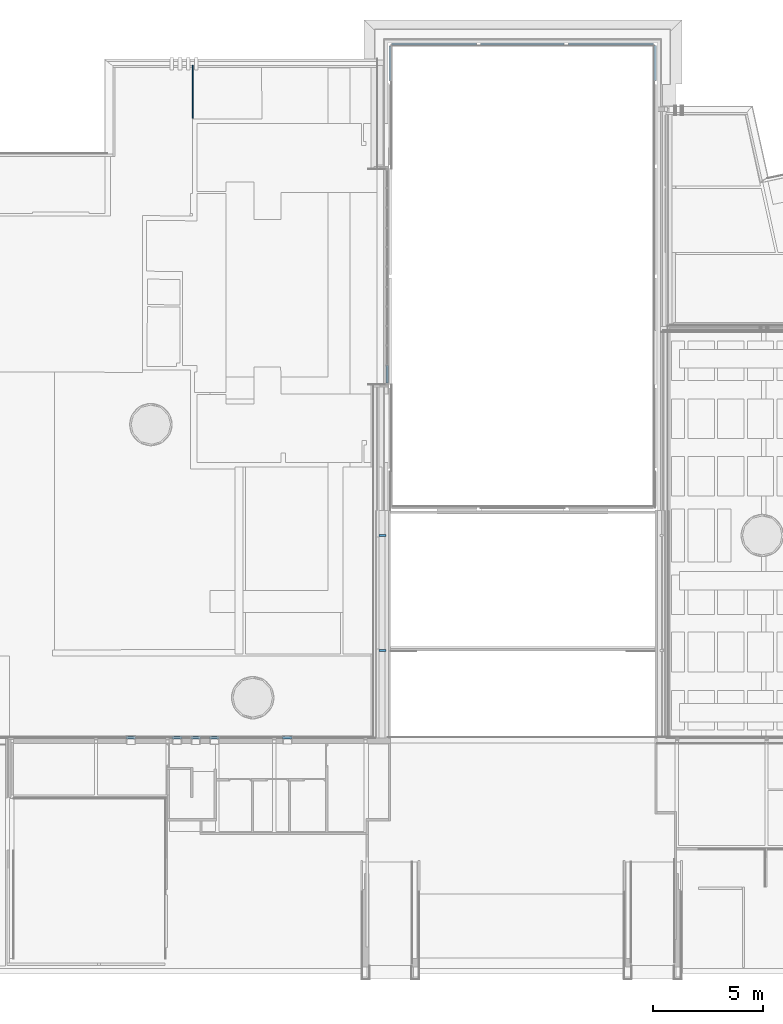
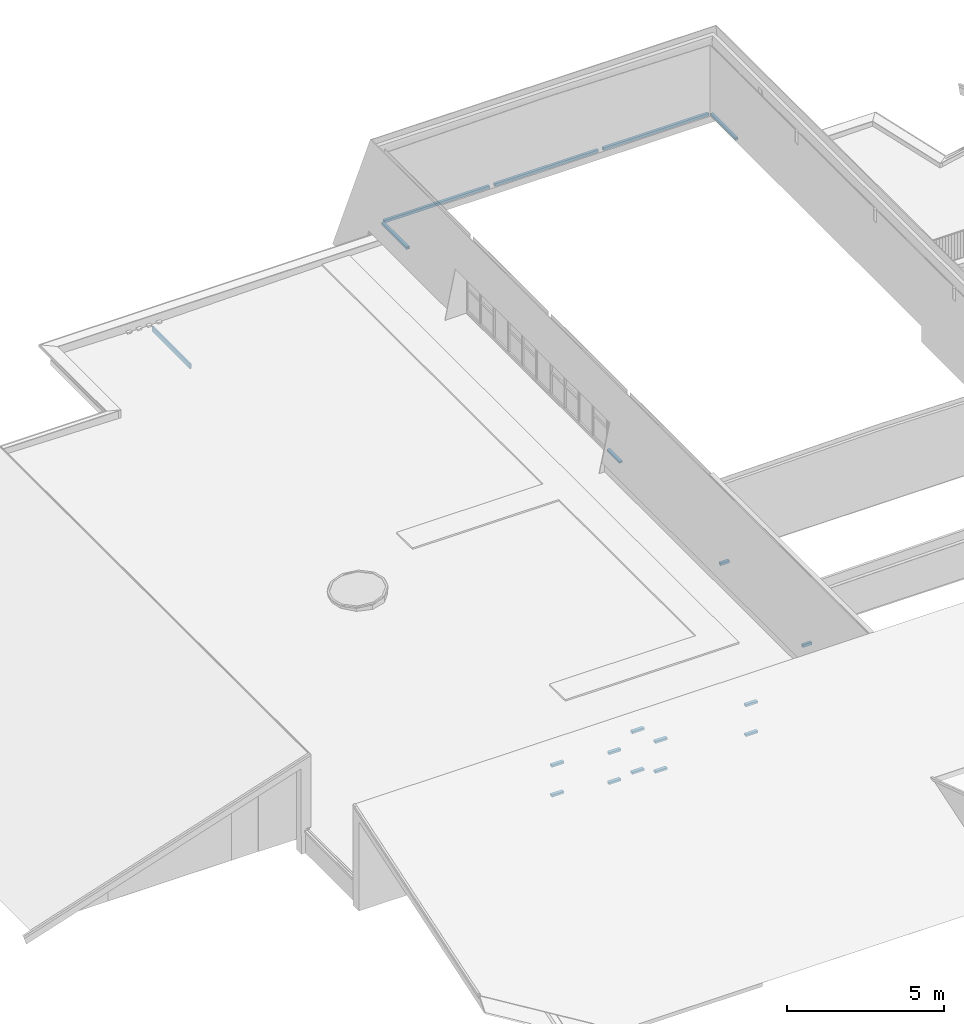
# One storey, part 5 of 66: 11 members, 8 beams, 6 elements without a shape of their own.
"""IFC2X3 building model written with IfcOpenShell, lengths in millimetres."""

import ifcopenshell
import ifcopenshell.guid

model = None  # the IFC model being written
_history = None  # IfcOwnerHistory: only IFC2X3 demands one
_inside = {}  # id of a spatial element -> (the spatial element, [elements in it])
_under = {}  # id of a project, library or spatial element -> (it, [spatial elements below it])
_declared = {}  # id of a project -> (the project, [libraries it declares])
_typed = {}  # id of a type object -> (the type object, [elements of that type])
_made_of = {}  # id of a material, layer set ... -> (it, [elements and type objects made of it])


def new_model(schema):
    """Start an empty IFC model of exactly this schema.

    Asked for "IFC4X3", IfcOpenShell would pick the latest addendum, in which some entities
    have other attributes; the version numbers below select the first issue.
    IFC2X3 requires an IfcOwnerHistory on every rooted entity: one is made here for all.
    """
    global model, _history
    if schema == "IFC4X3":
        model = ifcopenshell.file(schema_version=(4, 3, 0, 0))
    else:
        model = ifcopenshell.file(schema=schema)
    _inside.clear()
    _under.clear()
    _declared.clear()
    _typed.clear()
    _made_of.clear()
    _history = None
    if model.schema == "IFC2X3":
        org = make("IfcOrganization", Name="unknown")
        user = make(
            "IfcPersonAndOrganization",
            ThePerson=make("IfcPerson", FamilyName="unknown"),
            TheOrganization=org,
        )
        app = make(
            "IfcApplication",
            ApplicationDeveloper=org,
            Version="unknown",
            ApplicationFullName="unknown",
            ApplicationIdentifier="unknown",
        )
        _history = make(
            "IfcOwnerHistory",
            OwningUser=user,
            OwningApplication=app,
            ChangeAction="ADDED",
            CreationDate=0,
        )
    return model


def make(cls, **values):
    """One entity of the class cls with the attributes given. An attribute that is None is left unset."""
    return model.create_entity(
        cls, **{name: value for name, value in values.items() if value is not None}
    )


def entity(cls, *values):
    """Any entity or typed value of the class cls, its attributes in the order of the schema. None: left unset."""
    e = model.create_entity(cls)
    for i, value in enumerate(values):
        if value is not None:
            e[i] = value
    return e


def rooted(cls, **values):
    """An entity with a GlobalId (a new one), such as an element, a storey or a relation."""
    return make(cls, GlobalId=ifcopenshell.guid.new(), OwnerHistory=_history, **values)


def si_unit(unit_type, name, prefix=None):
    """IfcSIUnit, for example si_unit("LENGTHUNIT", "METRE", prefix="MILLI")."""
    return make("IfcSIUnit", UnitType=unit_type, Prefix=prefix, Name=name)


def converted_unit(unit_type, name, factor, base, dimensions=None, offset=None):
    """IfcConversionBasedUnit, such as the inch: factor (a typed value) times the base unit."""
    return make(
        "IfcConversionBasedUnit"
        if offset is None
        else "IfcConversionBasedUnitWithOffset",
        ConversionOffset=offset,
        Dimensions=None
        if dimensions is None
        else entity("IfcDimensionalExponents", *dimensions),
        UnitType=unit_type,
        Name=name,
        ConversionFactor=make(
            "IfcMeasureWithUnit", ValueComponent=factor, UnitComponent=base
        ),
    )


def derived_unit(unit_type, elements):
    """IfcDerivedUnit: a product of units, each with its exponent."""
    return make(
        "IfcDerivedUnit",
        Elements=[
            make("IfcDerivedUnitElement", Unit=unit, Exponent=power)
            for unit, power in elements
        ],
        UnitType=unit_type,
    )


def assignment(units):
    """IfcUnitAssignment: the units of a project."""
    return None if units is None else make("IfcUnitAssignment", Units=units)


def point(xyz):
    """IfcCartesianPoint."""
    return None if xyz is None else make("IfcCartesianPoint", Coordinates=xyz)


def direction(xyz):
    """IfcDirection."""
    return None if xyz is None else make("IfcDirection", DirectionRatios=xyz)


def frame(location, z_axis=None, x_axis=None):
    """IfcAxis2Placement3D, a coordinate frame: its origin and axes. An axis left out is left unset."""
    return make(
        "IfcAxis2Placement3D",
        Location=point(location),
        Axis=direction(z_axis),
        RefDirection=direction(x_axis),
    )


def frame_2d(location, x_axis=None):
    """IfcAxis2Placement2D, a coordinate frame in the plane: its origin and x axis."""
    return make(
        "IfcAxis2Placement2D", Location=point(location), RefDirection=direction(x_axis)
    )


def origin():
    """The frame at (0, 0, 0) with its axes left unset."""
    return frame((0.0, 0.0, 0.0))


def origin_2d_with_axis():
    """The frame at (0, 0) in the plane with the x axis (1, 0) written out."""
    return frame_2d((0.0, 0.0), x_axis=(1.0, 0.0))


def place(relative_to, where):
    """IfcLocalPlacement: puts the frame where relative to a parent placement (None: the world)."""
    return make(
        "IfcLocalPlacement", PlacementRelTo=relative_to, RelativePlacement=where
    )


def context(
    kind, dimensions, precision=None, world=None, true_north=None, identifier=None
):
    """IfcGeometricRepresentationContext, for example the 3D "Model" context."""
    return make(
        "IfcGeometricRepresentationContext",
        ContextIdentifier=identifier,
        ContextType=kind,
        CoordinateSpaceDimension=dimensions,
        Precision=precision,
        WorldCoordinateSystem=world,
        TrueNorth=true_north,
    )


def subcontext(parent, identifier, kind, view, scale=None):
    """IfcGeometricRepresentationSubContext, for example "Body" below "Model"."""
    return make(
        "IfcGeometricRepresentationSubContext",
        ContextIdentifier=identifier,
        ContextType=kind,
        ParentContext=parent,
        TargetScale=scale,
        TargetView=view,
    )


def project(units=None, contexts=None):
    """IfcProject with its units and contexts."""
    return rooted(
        "IfcProject",
        Name="project",
        RepresentationContexts=contexts,
        UnitsInContext=assignment(units),
    )


def spatial(cls, under=None, at=None, **own):
    """A site, building, storey or space (cls), placed at a placement, below another one or the project."""
    s = rooted(cls, ObjectPlacement=at, **own)
    if under is not None:
        _under.setdefault(under.id(), (under, []))[1].append(s)
    return s


def profile(cls, at=None, kind="AREA", **sizes):
    """A parametric profile (cls). Its sizes go by their IFC names, for example OverallWidth=200.0."""
    return make(cls, ProfileType=kind, Position=at, **sizes)


def rectangle(**sizes):
    """IfcRectangleProfileDef."""
    return profile("IfcRectangleProfileDef", **sizes)


def extrude(swept, where, along, depth):
    """IfcExtrudedAreaSolid: the profile swept, set in the frame where, extruded along a direction by depth."""
    return make(
        "IfcExtrudedAreaSolid",
        SweptArea=swept,
        Position=where,
        ExtrudedDirection=direction(along),
        Depth=depth,
    )


def boolean(op, a, b):
    """IfcBooleanResult of two solids."""
    return make("IfcBooleanResult", Operator=op, FirstOperand=a, SecondOperand=b)


def shape(context_of_items, identifier, shape_type, items):
    """IfcShapeRepresentation: the items that make up one representation, for example the "Body"."""
    return make(
        "IfcShapeRepresentation",
        ContextOfItems=context_of_items,
        RepresentationIdentifier=identifier,
        RepresentationType=shape_type,
        Items=items,
    )


def source(mapping_origin, context_of_items, identifier, shape_type, items):
    """IfcRepresentationMap: a shape defined once, which mapped items show again and again."""
    return make(
        "IfcRepresentationMap",
        MappingOrigin=mapping_origin,
        MappedRepresentation=shape(context_of_items, identifier, shape_type, items),
    )


def transform(
    local_origin,
    x_axis=None,
    y_axis=None,
    z_axis=None,
    scale=None,
    scale2=None,
    scale3=None,
    uniform=True,
):
    """IfcCartesianTransformationOperator3D, or its non-uniform kind. x_axis, y_axis, z_axis: its Axis1, 2, 3."""
    if uniform:
        return make(
            "IfcCartesianTransformationOperator3D",
            Axis1=direction(x_axis),
            Axis2=direction(y_axis),
            LocalOrigin=point(local_origin),
            Scale=scale,
            Axis3=direction(z_axis),
        )
    return make(
        "IfcCartesianTransformationOperator3DnonUniform",
        Axis1=direction(x_axis),
        Axis2=direction(y_axis),
        LocalOrigin=point(local_origin),
        Scale=scale,
        Axis3=direction(z_axis),
        Scale2=scale2,
        Scale3=scale3,
    )


def mapped(mapping_source, mapping_target):
    """IfcMappedItem: shows the shape of a source again, moved by a transform."""
    return make(
        "IfcMappedItem", MappingSource=mapping_source, MappingTarget=mapping_target
    )


def material(Name=None, Category=None):
    """IfcMaterial."""
    return make("IfcMaterial", Name=Name, Category=Category)


def made_of(thing, what):
    """Note that an element or type object is made of a material, layer set ...; save() writes the relation."""
    if what is not None:
        _made_of.setdefault(what.id(), (what, []))[1].append(thing)
    return thing


def type_object(cls, material=None, **own):
    """A type object (cls), such as IfcWallType, which elements share."""
    return made_of(rooted(cls, **own), material)


def type_shapes(of_type, sources):
    """Give a type object the sources (RepresentationMaps) that its elements show as mapped items."""
    of_type.RepresentationMaps = sources


def element(
    cls,
    number,
    at=None,
    inside=None,
    cuts=None,
    type_object=None,
    material=None,
    context=None,
    identifier="Body",
    shape_type=None,
    held_by="IfcProductDefinitionShape",
    body=None,
    shapes=None,
    **own,
):
    """One element of the class cls, such as IfcWall. Its Tag is "e" and its number.

    at: its placement. inside: the storey or other place that contains it. cuts: it is an
    opening in that element (IfcRelVoidsElement). A single representation is given by context,
    identifier, shape_type and body (its items); several are given by shapes. held_by: the class
    of the entity that holds the representations. save() writes the other relations.
    """
    e = rooted(cls, Tag="e%d" % number, ObjectPlacement=at, **own)
    if body is not None:
        shapes = [shape(context, identifier, shape_type, body)]
    if shapes is not None:
        e.Representation = make(held_by, Representations=shapes)
    if inside is not None:
        _inside.setdefault(inside.id(), (inside, []))[1].append(e)
    if cuts is not None:
        rooted(
            "IfcRelVoidsElement", RelatingBuildingElement=cuts, RelatedOpeningElement=e
        )
    if type_object is not None:
        _typed.setdefault(type_object.id(), (type_object, []))[1].append(e)
    return made_of(e, material)


def aggregate(whole, parts):
    """IfcRelAggregates: a whole, such as a stair, and the parts it consists of."""
    return rooted("IfcRelAggregates", RelatingObject=whole, RelatedObjects=parts)


def save(model, path):
    """Write the relations noted so far, then the file.

    IfcRelAggregates (storeys below a building ...), IfcRelContainedInSpatialStructure (elements
    in a storey), IfcRelDefinesByType, IfcRelAssociatesMaterial and IfcRelDeclares: one each for
    every whole, place, type object, material and project.
    """
    for whole, parts in _under.values():
        aggregate(whole, parts)
    for where, things in _inside.values():
        rooted(
            "IfcRelContainedInSpatialStructure",
            RelatedElements=things,
            RelatingStructure=where,
        )
    for kind, things in _typed.values():
        rooted("IfcRelDefinesByType", RelatedObjects=things, RelatingType=kind)
    for what, things in _made_of.values():
        rooted("IfcRelAssociatesMaterial", RelatedObjects=things, RelatingMaterial=what)
    for by, libraries in _declared.values():
        rooted("IfcRelDeclares", RelatingContext=by, RelatedDefinitions=libraries)
    model.write(path)


model = new_model("IFC2X3")

# Units and contexts
model_context = context("Model", 3, precision=0.01, world=origin(), true_north=direction((6.12303176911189e-17, 1.0)))
body_context = subcontext(model_context, "Body", "Model", "MODEL_VIEW")
ifc_project = project(units=[si_unit("LENGTHUNIT", "METRE", prefix="MILLI"), si_unit("AREAUNIT", "SQUARE_METRE"), si_unit("VOLUMEUNIT", "CUBIC_METRE"), converted_unit("PLANEANGLEUNIT", "DEGREE", entity("IfcRatioMeasure", 0.0174532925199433), si_unit("PLANEANGLEUNIT", "RADIAN"), dimensions=[0, 0, 0, 0, 0, 0, 0]), si_unit("MASSUNIT", "GRAM", prefix="KILO"), derived_unit("MASSDENSITYUNIT", [(si_unit("MASSUNIT", "GRAM", prefix="KILO"), 1), (si_unit("LENGTHUNIT", "METRE"), -3)]), derived_unit("MOMENTOFINERTIAUNIT", [(si_unit("LENGTHUNIT", "METRE"), 4)]), si_unit("TIMEUNIT", "SECOND"), si_unit("FREQUENCYUNIT", "HERTZ"), si_unit("THERMODYNAMICTEMPERATUREUNIT", "DEGREE_CELSIUS"), derived_unit("THERMALTRANSMITTANCEUNIT", [(si_unit("MASSUNIT", "GRAM", prefix="KILO"), 1), (si_unit("THERMODYNAMICTEMPERATUREUNIT", "KELVIN"), -1), (si_unit("TIMEUNIT", "SECOND"), -3)]), derived_unit("VOLUMETRICFLOWRATEUNIT", [(si_unit("LENGTHUNIT", "METRE"), 3), (si_unit("TIMEUNIT", "SECOND"), -1)]), si_unit("ELECTRICCURRENTUNIT", "AMPERE"), si_unit("ELECTRICVOLTAGEUNIT", "VOLT"), si_unit("POWERUNIT", "WATT"), si_unit("FORCEUNIT", "NEWTON", prefix="KILO"), si_unit("ILLUMINANCEUNIT", "LUX"), si_unit("LUMINOUSFLUXUNIT", "LUMEN"), si_unit("LUMINOUSINTENSITYUNIT", "CANDELA"), derived_unit("USERDEFINED", [(si_unit("MASSUNIT", "GRAM", prefix="KILO"), -1), (si_unit("LENGTHUNIT", "METRE"), -2), (si_unit("TIMEUNIT", "SECOND"), 3), (si_unit("LUMINOUSFLUXUNIT", "LUMEN"), 1)]), derived_unit("LINEARVELOCITYUNIT", [(si_unit("LENGTHUNIT", "METRE"), 1), (si_unit("TIMEUNIT", "SECOND"), -1)]), si_unit("PRESSUREUNIT", "PASCAL"), derived_unit("USERDEFINED", [(si_unit("LENGTHUNIT", "METRE"), -2), (si_unit("MASSUNIT", "GRAM", prefix="KILO"), 1), (si_unit("TIMEUNIT", "SECOND"), -2)]), derived_unit("LINEARFORCEUNIT", [(si_unit("MASSUNIT", "GRAM", prefix="KILO"), 1), (si_unit("LENGTHUNIT", "METRE"), 1), (si_unit("TIMEUNIT", "SECOND"), -2), (si_unit("LENGTHUNIT", "METRE"), -1)]), derived_unit("PLANARFORCEUNIT", [(si_unit("MASSUNIT", "GRAM", prefix="KILO"), 1), (si_unit("LENGTHUNIT", "METRE"), 1), (si_unit("TIMEUNIT", "SECOND"), -2), (si_unit("LENGTHUNIT", "METRE"), -2)])], contexts=[model_context])

# Site, building, storey
site_placement = place(None, origin())
site = spatial("IfcSite", under=ifc_project, at=site_placement, Name="Default", CompositionType="ELEMENT")
building_placement = place(site_placement, origin())
building = spatial("IfcBuilding", under=site, at=building_placement, Name="-", CompositionType="ELEMENT")
storey_placement = place(building_placement, frame((0.0, 0.0, 3070.0)))
storey = spatial("IfcBuildingStorey", under=building, at=storey_placement, Name="01 eerste verdieping", CompositionType="ELEMENT", Elevation=3070.00000000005)

# Curtain wall, member
curtain_wall_type = type_object("IfcCurtainWallType", Name="Curtain Wall:NLRS_31_WIN_UN_houten kozijn vrij indeelbaar_gen_aly", PredefinedType="NOTDEFINED")
curtain_wall_1_placement = place(storey_placement, frame((0.0, 0.0, -3070.0)))
curtain_wall_1 = element("IfcCurtainWall", 1, at=curtain_wall_1_placement, inside=storey, type_object=curtain_wall_type, Name="Curtain Wall:NLRS_31_WIN_UN_houten kozijn vrij indeelbaar_gen_aly", ObjectType="Curtain Wall:NLRS_31_WIN_UN_houten kozijn vrij indeelbaar_gen_aly")
ifc_material_1 = material(Name="NLRS_i3_hout_Loofhout (hardhout) RAL 9005")
member_type_1 = type_object("IfcMemberType", Name="Rectangular Mullion:67x114 zwart", PredefinedType="MULLION", material=ifc_material_1)
shared_shape_1 = source(origin(), body_context, "Body", "SweptSolid", [
    extrude(rectangle(XDim=114.0, YDim=67.0, at=origin_2d_with_axis()), frame((-33.5, 0.0, -801.692821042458), z_axis=(0.0, 0.0, 1.0), x_axis=(0.0, -1.0, 0.0)), (0.0, 0.0, 1.0), 801.69282104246),
])
type_shapes(member_type_1, [shared_shape_1])
member_1_placement = place(storey_placement, frame((28618.0, 26540.9768827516, 345.359003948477), z_axis=(0.0, -1.0, 0.0), x_axis=(0.0, 0.0, -1.0)))
member_1 = element("IfcMember", 2, at=member_1_placement, type_object=member_type_1, material=ifc_material_1, Name="Rectangular Mullion:67x114 zwart", ObjectType="Rectangular Mullion:67x114 zwart", context=body_context, shape_type="MappedRepresentation", body=[
    mapped(shared_shape_1, transform((0.0, 0.0, 0.0), scale=1.0)),
])
aggregate(curtain_wall_1, [member_1])

curtain_wall_2_placement = place(storey_placement, frame((0.0, 0.0, -3070.0)))
curtain_wall_2 = element("IfcCurtainWall", 3, at=curtain_wall_2_placement, inside=storey, type_object=curtain_wall_type, Name="Curtain Wall:NLRS_31_WIN_UN_houten kozijn vrij indeelbaar_gen_aly", ObjectType="Curtain Wall:NLRS_31_WIN_UN_houten kozijn vrij indeelbaar_gen_aly")
ifc_material_2 = material(Name="n6_kunststof_RAL 7035")
member_type_2 = type_object("IfcMemberType", Name="Rectangular Mullion:81x120", PredefinedType="MULLION", material=ifc_material_2)
shared_shape_2 = source(origin(), body_context, "Body", "SweptSolid", [
    extrude(rectangle(XDim=120.0, YDim=81.0, at=origin_2d_with_axis()), frame((-40.5, 0.0, -440.0), z_axis=(0.0, 0.0, 1.0), x_axis=(0.0, -1.0, 0.0)), (0.0, 0.0, 1.0), 440.000000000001),
])
type_shapes(member_type_2, [shared_shape_2])
member_2_placement = place(storey_placement, frame((17185.0, 10417.1240954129, 2585.0), z_axis=(1.0, 0.0, 0.0), x_axis=(0.0, 0.0, 1.0)))
member_2 = element("IfcMember", 4, at=member_2_placement, type_object=member_type_2, material=ifc_material_2, Name="Rectangular Mullion:81x120", ObjectType="Rectangular Mullion:81x120", context=body_context, shape_type="MappedRepresentation", body=[
    mapped(shared_shape_2, transform((0.0, 0.0, 0.0), scale=1.0)),
])

curtain_wall_3_placement = place(storey_placement, frame((0.0, 0.0, -3070.0)))
curtain_wall_3 = element("IfcCurtainWall", 5, at=curtain_wall_3_placement, inside=storey, type_object=curtain_wall_type, Name="Curtain Wall:NLRS_31_WIN_UN_houten kozijn vrij indeelbaar_gen_aly", ObjectType="Curtain Wall:NLRS_31_WIN_UN_houten kozijn vrij indeelbaar_gen_aly")
member_3_placement = place(storey_placement, frame((19281.6948343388, 10417.1240954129, 2339.0), z_axis=(1.0, 0.0, 0.0), x_axis=(0.0, 0.0, 1.0)))
member_3 = element("IfcMember", 6, at=member_3_placement, type_object=member_type_2, material=ifc_material_2, Name="Rectangular Mullion:81x120", ObjectType="Rectangular Mullion:81x120", context=body_context, shape_type="MappedRepresentation", body=[
    mapped(shared_shape_2, transform((0.0, 0.0, 0.0), scale=1.0)),
])

curtain_wall_4_placement = place(storey_placement, frame((0.0, 0.0, -3070.0)))
curtain_wall_4 = element("IfcCurtainWall", 7, at=curtain_wall_4_placement, inside=storey, type_object=curtain_wall_type, Name="Curtain Wall:NLRS_31_WIN_UN_houten kozijn vrij indeelbaar_gen_aly", ObjectType="Curtain Wall:NLRS_31_WIN_UN_houten kozijn vrij indeelbaar_gen_aly")
member_4_placement = place(storey_placement, frame((20131.6948343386, 10417.1240954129, 2858.0), z_axis=(1.0, 0.0, 0.0), x_axis=(0.0, 0.0, 1.0)))
member_4 = element("IfcMember", 8, at=member_4_placement, type_object=member_type_2, material=ifc_material_2, Name="Rectangular Mullion:81x120", ObjectType="Rectangular Mullion:81x120", context=body_context, shape_type="MappedRepresentation", body=[
    mapped(shared_shape_2, transform((0.0, 0.0, 0.0), scale=1.0)),
])

curtain_wall_5_placement = place(storey_placement, frame((0.0, 0.0, -3070.0)))
curtain_wall_5 = element("IfcCurtainWall", 9, at=curtain_wall_5_placement, inside=storey, type_object=curtain_wall_type, Name="Curtain Wall:NLRS_31_WIN_UN_houten kozijn vrij indeelbaar_gen_aly", ObjectType="Curtain Wall:NLRS_31_WIN_UN_houten kozijn vrij indeelbaar_gen_aly")
member_5_placement = place(storey_placement, frame((20981.6948343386, 10417.1240954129, 2179.0), z_axis=(1.0, 0.0, 0.0), x_axis=(0.0, 0.0, 1.0)))
member_5 = element("IfcMember", 10, at=member_5_placement, type_object=member_type_2, material=ifc_material_2, Name="Rectangular Mullion:81x120", ObjectType="Rectangular Mullion:81x120", context=body_context, shape_type="MappedRepresentation", body=[
    mapped(shared_shape_2, transform((0.0, 0.0, 0.0), scale=1.0)),
])

curtain_wall_6_placement = place(storey_placement, frame((0.0, 0.0, -3070.0)))
curtain_wall_6 = element("IfcCurtainWall", 11, at=curtain_wall_6_placement, inside=storey, type_object=curtain_wall_type, Name="Curtain Wall:NLRS_31_WIN_UN_houten kozijn vrij indeelbaar_gen_aly", ObjectType="Curtain Wall:NLRS_31_WIN_UN_houten kozijn vrij indeelbaar_gen_aly")
member_6_placement = place(storey_placement, frame((24300.0, 10417.1240954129, 2439.0), z_axis=(1.0, 0.0, 0.0), x_axis=(0.0, 0.0, 1.0)))
member_6 = element("IfcMember", 12, at=member_6_placement, type_object=member_type_2, material=ifc_material_2, Name="Rectangular Mullion:81x120", ObjectType="Rectangular Mullion:81x120", context=body_context, shape_type="MappedRepresentation", body=[
    mapped(shared_shape_2, transform((0.0, 0.0, 0.0), scale=1.0)),
])

# Member
member_type_3 = type_object("IfcMemberType", Name="Rectangular Mullion:81x120", PredefinedType="MULLION", material=ifc_material_2)
shared_shape_3 = source(origin(), body_context, "Body", "SweptSolid", [
    extrude(rectangle(XDim=120.0, YDim=81.0, at=origin_2d_with_axis()), frame((-40.5, 0.0, -440.0), z_axis=(0.0, 0.0, 1.0), x_axis=(0.0, -1.0, 0.0)), (0.0, 0.0, 1.0), 440.0),
])
type_shapes(member_type_3, [shared_shape_3])
member_7_placement = place(storey_placement, frame((16745.0, 10417.1240954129, 1346.0), z_axis=(-1.0, 0.0, 0.0), x_axis=(0.0, 0.0, -1.0)))
member_7 = element("IfcMember", 13, at=member_7_placement, type_object=member_type_3, material=ifc_material_2, Name="Rectangular Mullion:81x120", ObjectType="Rectangular Mullion:81x120", context=body_context, shape_type="MappedRepresentation", body=[
    mapped(shared_shape_3, transform((0.0, 0.0, 0.0), scale=1.0)),
])

aggregate(curtain_wall_2, [member_2, member_7])

member_8_placement = place(storey_placement, frame((18841.6948343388, 10417.1240954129, 1100.0), z_axis=(-1.0, 0.0, 0.0), x_axis=(0.0, 0.0, -1.0)))
member_8 = element("IfcMember", 14, at=member_8_placement, type_object=member_type_3, material=ifc_material_2, Name="Rectangular Mullion:81x120", ObjectType="Rectangular Mullion:81x120", context=body_context, shape_type="MappedRepresentation", body=[
    mapped(shared_shape_3, transform((0.0, 0.0, 0.0), scale=1.0)),
])

aggregate(curtain_wall_3, [member_3, member_8])

member_9_placement = place(storey_placement, frame((19691.6948343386, 10417.1240954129, 1200.0), z_axis=(-1.0, 0.0, 0.0), x_axis=(0.0, 0.0, -1.0)))
member_9 = element("IfcMember", 15, at=member_9_placement, type_object=member_type_3, material=ifc_material_2, Name="Rectangular Mullion:81x120", ObjectType="Rectangular Mullion:81x120", context=body_context, shape_type="MappedRepresentation", body=[
    mapped(shared_shape_3, transform((0.0, 0.0, 0.0), scale=1.0)),
])

aggregate(curtain_wall_4, [member_4, member_9])

member_10_placement = place(storey_placement, frame((20541.6948343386, 10417.1240954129, 940.0), z_axis=(-1.0, 0.0, 0.0), x_axis=(0.0, 0.0, -1.0)))
member_10 = element("IfcMember", 16, at=member_10_placement, type_object=member_type_3, material=ifc_material_2, Name="Rectangular Mullion:81x120", ObjectType="Rectangular Mullion:81x120", context=body_context, shape_type="MappedRepresentation", body=[
    mapped(shared_shape_3, transform((0.0, 0.0, 0.0), scale=1.0)),
])

aggregate(curtain_wall_5, [member_5, member_10])

member_11_placement = place(storey_placement, frame((23860.0, 10417.1240954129, 1200.0), z_axis=(-1.0, 0.0, 0.0), x_axis=(0.0, 0.0, -1.0)))
member_11 = element("IfcMember", 17, at=member_11_placement, type_object=member_type_3, material=ifc_material_2, Name="Rectangular Mullion:81x120", ObjectType="Rectangular Mullion:81x120", context=body_context, shape_type="MappedRepresentation", body=[
    mapped(shared_shape_3, transform((0.0, 0.0, 0.0), scale=1.0)),
])

aggregate(curtain_wall_6, [member_6, member_11])

# Beams
ifc_material_3 = material(Name="NLRS_h3_staal_verzinkt")
beam_type_1 = type_object("IfcBeamType", Name="NLRS_28_SF_UN_kokerprofielen_gen_aly:K100/4", PredefinedType="NOTDEFINED")
beam_1_placement = place(storey_placement, frame((40812.1311424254, 40262.1084128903, 345.0), z_axis=(0.0, 0.0, 1.0), x_axis=(0.0, 1.0, 0.0)))
element("IfcBeam", 18, at=beam_1_placement, inside=storey, type_object=beam_type_1, material=ifc_material_3, Name="NLRS_28_SF_UN_kokerprofielen_gen_aly:K100/4", ObjectType="NLRS_28_SF_UN_kokerprofielen_gen_aly:K100/4", context=body_context, shape_type="CSG", body=[
    boolean("DIFFERENCE", extrude(rectangle(XDim=100.0, YDim=99.9999999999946, at=origin_2d_with_axis()), frame((42.4491509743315, 0.0, -50.0), z_axis=(1.0, 0.0, 0.0), x_axis=(0.0, 0.0, -1.0)), (0.0, 0.0, 1.0), 1585.56268660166), extrude(rectangle(XDim=92.0000000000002, YDim=91.9999999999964, at=frame_2d((0.0, 2.70006239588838e-13), x_axis=(0.0, 1.0))), frame((42.4491509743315, 0.0, -50.0), z_axis=(1.0, 0.0, 0.0), x_axis=(0.0, -1.0, 0.0)), (0.0, 0.0, 1.0), 1585.56268660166)),
])
beam_2_placement = place(storey_placement, frame((36774.0, 41963.3202504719, 345.0)))
element("IfcBeam", 19, at=beam_2_placement, inside=storey, type_object=beam_type_1, material=ifc_material_3, Name="NLRS_28_SF_UN_kokerprofielen_gen_aly:K100/4", ObjectType="NLRS_28_SF_UN_kokerprofielen_gen_aly:K100/4", context=body_context, shape_type="CSG", body=[
    boolean("DIFFERENCE", extrude(rectangle(XDim=100.0, YDim=99.9999999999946, at=frame_2d((5.40012479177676e-13, 8.66151594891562e-12), x_axis=(1.0, 0.0))), frame((82.6999999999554, 0.0, -50.0), z_axis=(1.0, 0.0, 0.0), x_axis=(0.0, 0.0, -1.0)), (0.0, 0.0, 1.0), 3866.60000000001), extrude(rectangle(XDim=92.0000000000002, YDim=91.9999999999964, at=frame_2d((0.0, -2.70006239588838e-13), x_axis=(0.0, 1.0))), frame((82.6999999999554, 0.0, -50.0), z_axis=(1.0, 0.0, 0.0), x_axis=(0.0, -1.0, 0.0)), (0.0, 0.0, 1.0), 3866.60000000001)),
])
beam_3_placement = place(storey_placement, frame((28747.0, 40262.1084128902, 345.0), z_axis=(0.0, 0.0, 1.0), x_axis=(0.0, 1.0, 0.0)))
element("IfcBeam", 20, at=beam_3_placement, inside=storey, type_object=beam_type_1, material=ifc_material_3, Name="NLRS_28_SF_UN_kokerprofielen_gen_aly:K100/4", ObjectType="NLRS_28_SF_UN_kokerprofielen_gen_aly:K100/4", context=body_context, shape_type="CSG", body=[
    boolean("DIFFERENCE", extrude(rectangle(XDim=100.0, YDim=99.9999999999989, at=frame_2d((0.0, -2.16715534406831e-12), x_axis=(1.0, 0.0))), frame((37.4491509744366, 0.0, -50.0), z_axis=(1.0, 0.0, 0.0), x_axis=(0.0, 0.0, -1.0)), (0.0, 0.0, 1.0), 1585.56268660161), extrude(rectangle(XDim=92.0000000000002, YDim=92.0000000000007, at=frame_2d((2.16715534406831e-12, 2.70006239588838e-13), x_axis=(0.0, 1.0))), frame((37.4491509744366, 0.0, -50.0), z_axis=(1.0, 0.0, 0.0), x_axis=(0.0, -1.0, 0.0)), (0.0, 0.0, 1.0), 1585.56268660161)),
])
beam_4_placement = place(storey_placement, frame((32874.0, 41963.3202504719, 345.0)))
element("IfcBeam", 21, at=beam_4_placement, inside=storey, type_object=beam_type_1, material=ifc_material_3, Name="NLRS_28_SF_UN_kokerprofielen_gen_aly:K100/4", ObjectType="NLRS_28_SF_UN_kokerprofielen_gen_aly:K100/4", context=body_context, shape_type="CSG", body=[
    boolean("DIFFERENCE", extrude(rectangle(XDim=100.0, YDim=99.9999999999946, at=frame_2d((0.0, 8.66151594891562e-12), x_axis=(1.0, 0.0))), frame((-5.30000000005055, 0.0, -50.0), z_axis=(1.0, 0.0, 0.0), x_axis=(0.0, 0.0, -1.0)), (0.0, 0.0, 1.0), 3802.60000000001), extrude(rectangle(XDim=92.0000000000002, YDim=91.9999999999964, at=frame_2d((0.0, -2.70006239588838e-13), x_axis=(0.0, 1.0))), frame((-5.30000000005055, 0.0, -50.0), z_axis=(1.0, 0.0, 0.0), x_axis=(0.0, -1.0, 0.0)), (0.0, 0.0, 1.0), 3802.60000000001)),
])
beam_5_placement = place(storey_placement, frame((28747.0, 41963.3202504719, 345.0)))
element("IfcBeam", 22, at=beam_5_placement, inside=storey, type_object=beam_type_1, material=ifc_material_3, Name="NLRS_28_SF_UN_kokerprofielen_gen_aly:K100/4", ObjectType="NLRS_28_SF_UN_kokerprofielen_gen_aly:K100/4", context=body_context, shape_type="CSG", body=[
    boolean("DIFFERENCE", extrude(rectangle(XDim=100.0, YDim=99.9999999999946, at=frame_2d((5.40012479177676e-13, 8.66151594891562e-12), x_axis=(1.0, 0.0))), frame((77.6999999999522, 0.0, -50.0), z_axis=(1.0, 0.0, 0.0), x_axis=(0.0, 0.0, -1.0)), (0.0, 0.0, 1.0), 3858.60000000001), extrude(rectangle(XDim=92.0000000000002, YDim=91.9999999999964, at=frame_2d((0.0, -2.70006239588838e-13), x_axis=(0.0, 1.0))), frame((77.6999999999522, 0.0, -50.0), z_axis=(1.0, 0.0, 0.0), x_axis=(0.0, -1.0, 0.0)), (0.0, 0.0, 1.0), 3858.60000000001)),
])
beam_6_placement = place(storey_placement, frame((28186.4481330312, 14386.3202504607, 810.0)))
element("IfcBeam", 23, at=beam_6_placement, inside=storey, type_object=beam_type_1, material=ifc_material_3, Name="NLRS_28_SF_UN_kokerprofielen_gen_aly:K100/4", ObjectType="NLRS_28_SF_UN_kokerprofielen_gen_aly:K100/4", context=body_context, shape_type="CSG", body=[
    boolean("DIFFERENCE", extrude(rectangle(XDim=100.0, YDim=99.9999999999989, at=origin_2d_with_axis()), frame((62.6999999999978, 0.0, -50.0), z_axis=(1.0, 0.0, 0.0), x_axis=(0.0, 0.0, -1.0)), (0.0, 0.0, 1.0), 322.164705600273), extrude(rectangle(XDim=92.0000000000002, YDim=91.9999999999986, at=frame_2d((1.08357767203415e-12, 2.70006239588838e-13), x_axis=(0.0, 1.0))), frame((384.864705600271, 0.0, -50.0), z_axis=(-1.0, 0.0, 0.0), x_axis=(0.0, 1.0, 0.0)), (0.0, 0.0, 1.0), 322.164705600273)),
])
beam_7_placement = place(storey_placement, frame((28186.4481330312, 19617.5681303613, 810.0)))
element("IfcBeam", 24, at=beam_7_placement, inside=storey, type_object=beam_type_1, material=ifc_material_3, Name="NLRS_28_SF_UN_kokerprofielen_gen_aly:K100/4", ObjectType="NLRS_28_SF_UN_kokerprofielen_gen_aly:K100/4", context=body_context, shape_type="CSG", body=[
    boolean("DIFFERENCE", extrude(rectangle(XDim=100.0, YDim=99.9999999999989, at=frame_2d((0.0, -2.16715534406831e-12), x_axis=(1.0, 0.0))), frame((62.6999999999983, 0.0, -50.0), z_axis=(1.0, 0.0, 0.0), x_axis=(0.0, 0.0, -1.0)), (0.0, 0.0, 1.0), 322.164705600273), extrude(rectangle(XDim=92.0000000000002, YDim=92.0000000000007, at=frame_2d((2.16715534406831e-12, 2.70006239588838e-13), x_axis=(0.0, 1.0))), frame((384.864705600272, 0.0, -50.0), z_axis=(-1.0, 0.0, 0.0), x_axis=(0.0, 1.0, 0.0)), (0.0, 0.0, 1.0), 322.164705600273)),
])
beam_type_2 = type_object("IfcBeamType", Name="NLRS_28_SF_UN_ongeschaafd vuren_gen_aly:71x245", PredefinedType="NOTDEFINED")
beam_8_placement = place(storey_placement, frame((19785.0, 40993.7541561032, -18.0), z_axis=(0.0, 0.0, 1.0), x_axis=(0.0, -1.0, 0.0)))
element("IfcBeam", 25, at=beam_8_placement, inside=storey, type_object=beam_type_2, material=ifc_material_3, Name="NLRS_28_SF_UN_ongeschaafd vuren_gen_aly:71x245", ObjectType="NLRS_28_SF_UN_ongeschaafd vuren_gen_aly:71x245", context=body_context, shape_type="SweptSolid", body=[
    extrude(rectangle(XDim=200.0, YDim=50.0000000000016, at=frame_2d((-5.47117906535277e-13, 2.16715534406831e-12), x_axis=(1.0, 0.0))), frame((0.0, 0.0, -100.0), z_axis=(1.0, 0.0, 0.0), x_axis=(0.0, 0.0, -1.0)), (0.0, 0.0, 1.0), 2412.07894964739),
])

save(model, "model.ifc")
